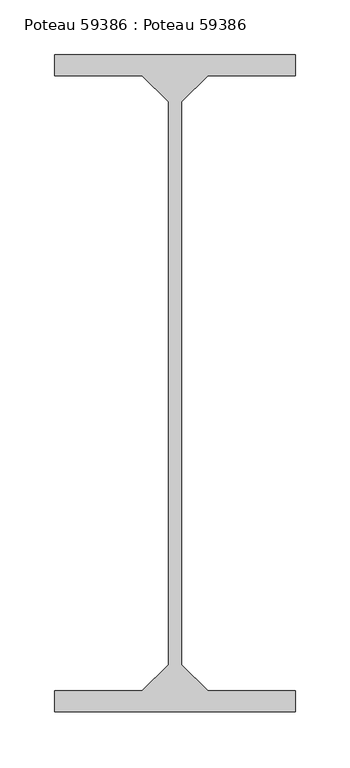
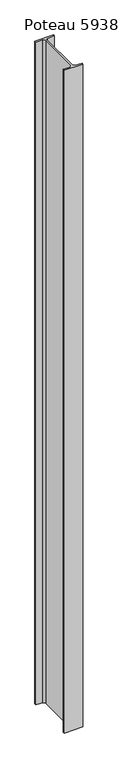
"""IFC4 building model written with IfcOpenShell, lengths in millimetres: beam geometry, Poteau 59386 : Poteau 59386."""

import ifcopenshell
import ifcopenshell.guid

model = None  # the IFC model being written
_history = None  # IfcOwnerHistory: only IFC2X3 demands one
_inside = {}  # id of a spatial element -> (the spatial element, [elements in it])
_under = {}  # id of a project, library or spatial element -> (it, [spatial elements below it])
_declared = {}  # id of a project -> (the project, [libraries it declares])
_typed = {}  # id of a type object -> (the type object, [elements of that type])
_made_of = {}  # id of a material, layer set ... -> (it, [elements and type objects made of it])


def new_model(schema):
    """Start an empty IFC model of exactly this schema.

    Asked for "IFC4X3", IfcOpenShell would pick the latest addendum, in which some entities
    have other attributes; the version numbers below select the first issue.
    IFC2X3 requires an IfcOwnerHistory on every rooted entity: one is made here for all.
    """
    global model, _history
    if schema == "IFC4X3":
        model = ifcopenshell.file(schema_version=(4, 3, 0, 0))
    else:
        model = ifcopenshell.file(schema=schema)
    _inside.clear()
    _under.clear()
    _declared.clear()
    _typed.clear()
    _made_of.clear()
    _history = None
    if model.schema == "IFC2X3":
        org = make("IfcOrganization", Name="unknown")
        user = make(
            "IfcPersonAndOrganization",
            ThePerson=make("IfcPerson", FamilyName="unknown"),
            TheOrganization=org,
        )
        app = make(
            "IfcApplication",
            ApplicationDeveloper=org,
            Version="unknown",
            ApplicationFullName="unknown",
            ApplicationIdentifier="unknown",
        )
        _history = make(
            "IfcOwnerHistory",
            OwningUser=user,
            OwningApplication=app,
            ChangeAction="ADDED",
            CreationDate=0,
        )
    return model


def make(cls, **values):
    """One entity of the class cls with the attributes given. An attribute that is None is left unset."""
    return model.create_entity(
        cls, **{name: value for name, value in values.items() if value is not None}
    )


def rooted(cls, **values):
    """An entity with a GlobalId (a new one), such as an element, a storey or a relation."""
    return make(cls, GlobalId=ifcopenshell.guid.new(), OwnerHistory=_history, **values)


def si_unit(unit_type, name, prefix=None):
    """IfcSIUnit, for example si_unit("LENGTHUNIT", "METRE", prefix="MILLI")."""
    return make("IfcSIUnit", UnitType=unit_type, Prefix=prefix, Name=name)


def assignment(units):
    """IfcUnitAssignment: the units of a project."""
    return None if units is None else make("IfcUnitAssignment", Units=units)


def point(xyz):
    """IfcCartesianPoint."""
    return None if xyz is None else make("IfcCartesianPoint", Coordinates=xyz)


def direction(xyz):
    """IfcDirection."""
    return None if xyz is None else make("IfcDirection", DirectionRatios=xyz)


def frame(location, z_axis=None, x_axis=None):
    """IfcAxis2Placement3D, a coordinate frame: its origin and axes. An axis left out is left unset."""
    return make(
        "IfcAxis2Placement3D",
        Location=point(location),
        Axis=direction(z_axis),
        RefDirection=direction(x_axis),
    )


def origin():
    """The frame at (0, 0, 0) with its axes left unset."""
    return frame((0.0, 0.0, 0.0))


def place(relative_to, where):
    """IfcLocalPlacement: puts the frame where relative to a parent placement (None: the world)."""
    return make(
        "IfcLocalPlacement", PlacementRelTo=relative_to, RelativePlacement=where
    )


def context(
    kind, dimensions, precision=None, world=None, true_north=None, identifier=None
):
    """IfcGeometricRepresentationContext, for example the 3D "Model" context."""
    return make(
        "IfcGeometricRepresentationContext",
        ContextIdentifier=identifier,
        ContextType=kind,
        CoordinateSpaceDimension=dimensions,
        Precision=precision,
        WorldCoordinateSystem=world,
        TrueNorth=true_north,
    )


def project(units=None, contexts=None):
    """IfcProject with its units and contexts."""
    return rooted(
        "IfcProject",
        Name="project",
        RepresentationContexts=contexts,
        UnitsInContext=assignment(units),
    )


def spatial(cls, under=None, at=None, **own):
    """A site, building, storey or space (cls), placed at a placement, below another one or the project."""
    s = rooted(cls, ObjectPlacement=at, **own)
    if under is not None:
        _under.setdefault(under.id(), (under, []))[1].append(s)
    return s


def polyline(points):
    """IfcPolyline through the points."""
    return make("IfcPolyline", Points=[point(p) for p in points])


def outline(outer, holes=None, kind="AREA"):
    """IfcArbitraryClosedProfileDef: a profile drawn as a closed curve; with holes, ...WithVoids."""
    if holes is None:
        return make("IfcArbitraryClosedProfileDef", ProfileType=kind, OuterCurve=outer)
    return make(
        "IfcArbitraryProfileDefWithVoids",
        ProfileType=kind,
        OuterCurve=outer,
        InnerCurves=holes,
    )


def extrude(swept, where, along, depth):
    """IfcExtrudedAreaSolid: the profile swept, set in the frame where, extruded along a direction by depth."""
    return make(
        "IfcExtrudedAreaSolid",
        SweptArea=swept,
        Position=where,
        ExtrudedDirection=direction(along),
        Depth=depth,
    )


def shape(context_of_items, identifier, shape_type, items):
    """IfcShapeRepresentation: the items that make up one representation, for example the "Body"."""
    return make(
        "IfcShapeRepresentation",
        ContextOfItems=context_of_items,
        RepresentationIdentifier=identifier,
        RepresentationType=shape_type,
        Items=items,
    )


def source(mapping_origin, context_of_items, identifier, shape_type, items):
    """IfcRepresentationMap: a shape defined once, which mapped items show again and again."""
    return make(
        "IfcRepresentationMap",
        MappingOrigin=mapping_origin,
        MappedRepresentation=shape(context_of_items, identifier, shape_type, items),
    )


def transform(
    local_origin,
    x_axis=None,
    y_axis=None,
    z_axis=None,
    scale=None,
    scale2=None,
    scale3=None,
    uniform=True,
):
    """IfcCartesianTransformationOperator3D, or its non-uniform kind. x_axis, y_axis, z_axis: its Axis1, 2, 3."""
    if uniform:
        return make(
            "IfcCartesianTransformationOperator3D",
            Axis1=direction(x_axis),
            Axis2=direction(y_axis),
            LocalOrigin=point(local_origin),
            Scale=scale,
            Axis3=direction(z_axis),
        )
    return make(
        "IfcCartesianTransformationOperator3DnonUniform",
        Axis1=direction(x_axis),
        Axis2=direction(y_axis),
        LocalOrigin=point(local_origin),
        Scale=scale,
        Axis3=direction(z_axis),
        Scale2=scale2,
        Scale3=scale3,
    )


def mapped(mapping_source, mapping_target):
    """IfcMappedItem: shows the shape of a source again, moved by a transform."""
    return make(
        "IfcMappedItem", MappingSource=mapping_source, MappingTarget=mapping_target
    )


def made_of(thing, what):
    """Note that an element or type object is made of a material, layer set ...; save() writes the relation."""
    if what is not None:
        _made_of.setdefault(what.id(), (what, []))[1].append(thing)
    return thing


def element(
    cls,
    number,
    at=None,
    inside=None,
    cuts=None,
    type_object=None,
    material=None,
    context=None,
    identifier="Body",
    shape_type=None,
    held_by="IfcProductDefinitionShape",
    body=None,
    shapes=None,
    **own,
):
    """One element of the class cls, such as IfcWall. Its Tag is "e" and its number.

    at: its placement. inside: the storey or other place that contains it. cuts: it is an
    opening in that element (IfcRelVoidsElement). A single representation is given by context,
    identifier, shape_type and body (its items); several are given by shapes. held_by: the class
    of the entity that holds the representations. save() writes the other relations.
    """
    e = rooted(cls, Tag="e%d" % number, ObjectPlacement=at, **own)
    if body is not None:
        shapes = [shape(context, identifier, shape_type, body)]
    if shapes is not None:
        e.Representation = make(held_by, Representations=shapes)
    if inside is not None:
        _inside.setdefault(inside.id(), (inside, []))[1].append(e)
    if cuts is not None:
        rooted(
            "IfcRelVoidsElement", RelatingBuildingElement=cuts, RelatedOpeningElement=e
        )
    if type_object is not None:
        _typed.setdefault(type_object.id(), (type_object, []))[1].append(e)
    return made_of(e, material)


def aggregate(whole, parts):
    """IfcRelAggregates: a whole, such as a stair, and the parts it consists of."""
    return rooted("IfcRelAggregates", RelatingObject=whole, RelatedObjects=parts)


def save(model, path):
    """Write the relations noted so far, then the file.

    IfcRelAggregates (storeys below a building ...), IfcRelContainedInSpatialStructure (elements
    in a storey), IfcRelDefinesByType, IfcRelAssociatesMaterial and IfcRelDeclares: one each for
    every whole, place, type object, material and project.
    """
    for whole, parts in _under.values():
        aggregate(whole, parts)
    for where, things in _inside.values():
        rooted(
            "IfcRelContainedInSpatialStructure",
            RelatedElements=things,
            RelatingStructure=where,
        )
    for kind, things in _typed.values():
        rooted("IfcRelDefinesByType", RelatedObjects=things, RelatingType=kind)
    for what, things in _made_of.values():
        rooted("IfcRelAssociatesMaterial", RelatedObjects=things, RelatingMaterial=what)
    for by, libraries in _declared.values():
        rooted("IfcRelDeclares", RelatingContext=by, RelatedDefinitions=libraries)
    model.write(path)


def poteau_59386_poteau_59386_185ae075(model_context):
    return source(origin(), model_context, "Body", "SweptSolid", [
        extrude(outline(polyline([(-110.0000001, -8015.0), (-110.0000001, -7996.0), (109.9999999, -7996.0), (109.9999999, -8015.0), (29.9999999, -8015.0), (5.9999999, -8039.0), (5.9999999, -8553.0), (29.9999999, -8577.0), (109.9999999, -8577.0), (109.9999999, -8596.0), (-110.0000001, -8596.0), (-110.0000001, -8577.0), (-30.0000001, -8577.0), (-6.0000001, -8553.0), (-6.0000001, -8039.0), (-30.0000001, -8015.0), (-110.0000001, -8015.0)])), frame((0.0, 0.0, -250.0), z_axis=(0.0, 0.0, 1.0), x_axis=(1.0, 0.0, 0.0)), (0.0, 0.0, 1.0), 8265.14),
    ])


if __name__ == "__main__":
    model = new_model("IFC4")
    model_context = context("Model", 3, world=origin())
    ifc_project = project(units=[si_unit("LENGTHUNIT", "METRE", prefix="MILLI")], contexts=[model_context])
    site = spatial("IfcSite", under=ifc_project)
    building = spatial("IfcBuilding", under=site)
    placement = place(None, origin())
    poteau_59386_poteau_59386_shape = poteau_59386_poteau_59386_185ae075(model_context)
    element("IfcBeam", 1, ObjectType="Poteau 59386 : Poteau 59386", at=placement, inside=building, context=model_context, shape_type="MappedRepresentation", body=[
        mapped(poteau_59386_poteau_59386_shape, transform((0.0, 0.0, 0.0), x_axis=(1.0, 0.0, 0.0), y_axis=(0.0, 1.0, 0.0), z_axis=(0.0, 0.0, 1.0))),
    ])
    save(model, "model.ifc")
